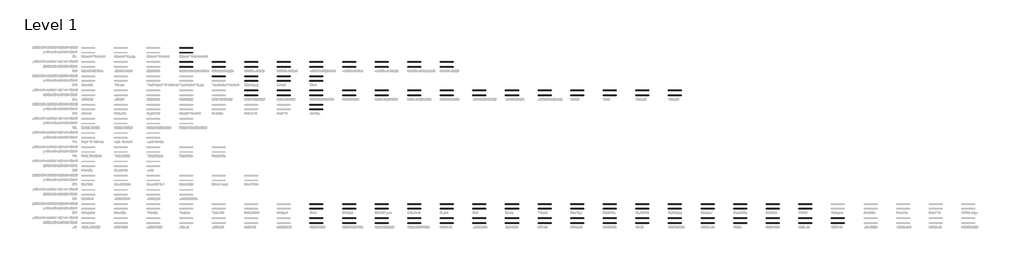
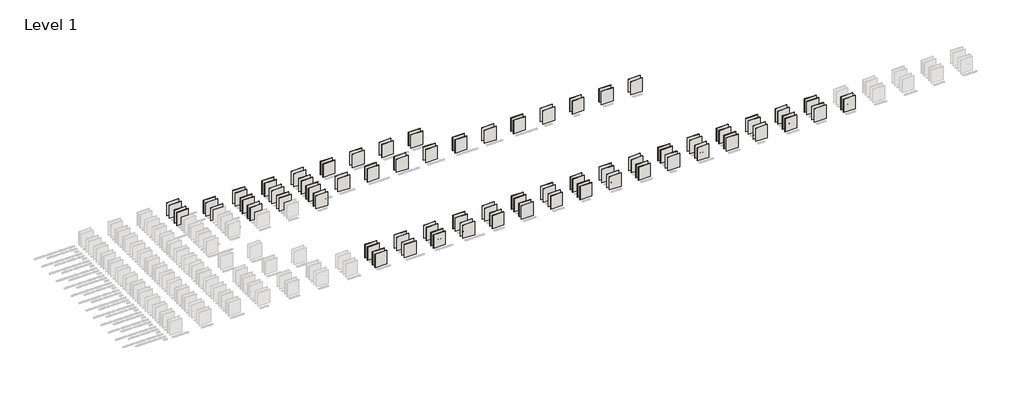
# One storey, part 2 of 113: 123 walls.
"""IFC4 building model written with IfcOpenShell, lengths in millimetres."""

import ifcopenshell
import ifcopenshell.guid

model = None  # the IFC model being written
_history = None  # IfcOwnerHistory: only IFC2X3 demands one
_inside = {}  # id of a spatial element -> (the spatial element, [elements in it])
_under = {}  # id of a project, library or spatial element -> (it, [spatial elements below it])
_declared = {}  # id of a project -> (the project, [libraries it declares])
_typed = {}  # id of a type object -> (the type object, [elements of that type])
_made_of = {}  # id of a material, layer set ... -> (it, [elements and type objects made of it])


def new_model(schema):
    """Start an empty IFC model of exactly this schema.

    Asked for "IFC4X3", IfcOpenShell would pick the latest addendum, in which some entities
    have other attributes; the version numbers below select the first issue.
    IFC2X3 requires an IfcOwnerHistory on every rooted entity: one is made here for all.
    """
    global model, _history
    if schema == "IFC4X3":
        model = ifcopenshell.file(schema_version=(4, 3, 0, 0))
    else:
        model = ifcopenshell.file(schema=schema)
    _inside.clear()
    _under.clear()
    _declared.clear()
    _typed.clear()
    _made_of.clear()
    _history = None
    if model.schema == "IFC2X3":
        org = make("IfcOrganization", Name="unknown")
        user = make(
            "IfcPersonAndOrganization",
            ThePerson=make("IfcPerson", FamilyName="unknown"),
            TheOrganization=org,
        )
        app = make(
            "IfcApplication",
            ApplicationDeveloper=org,
            Version="unknown",
            ApplicationFullName="unknown",
            ApplicationIdentifier="unknown",
        )
        _history = make(
            "IfcOwnerHistory",
            OwningUser=user,
            OwningApplication=app,
            ChangeAction="ADDED",
            CreationDate=0,
        )
    return model


def make(cls, **values):
    """One entity of the class cls with the attributes given. An attribute that is None is left unset."""
    return model.create_entity(
        cls, **{name: value for name, value in values.items() if value is not None}
    )


def rooted(cls, **values):
    """An entity with a GlobalId (a new one), such as an element, a storey or a relation."""
    return make(cls, GlobalId=ifcopenshell.guid.new(), OwnerHistory=_history, **values)


def si_unit(unit_type, name, prefix=None):
    """IfcSIUnit, for example si_unit("LENGTHUNIT", "METRE", prefix="MILLI")."""
    return make("IfcSIUnit", UnitType=unit_type, Prefix=prefix, Name=name)


def assignment(units):
    """IfcUnitAssignment: the units of a project."""
    return None if units is None else make("IfcUnitAssignment", Units=units)


def point(xyz):
    """IfcCartesianPoint."""
    return None if xyz is None else make("IfcCartesianPoint", Coordinates=xyz)


def direction(xyz):
    """IfcDirection."""
    return None if xyz is None else make("IfcDirection", DirectionRatios=xyz)


def frame(location, z_axis=None, x_axis=None):
    """IfcAxis2Placement3D, a coordinate frame: its origin and axes. An axis left out is left unset."""
    return make(
        "IfcAxis2Placement3D",
        Location=point(location),
        Axis=direction(z_axis),
        RefDirection=direction(x_axis),
    )


def origin():
    """The frame at (0, 0, 0) with its axes left unset."""
    return frame((0.0, 0.0, 0.0))


def origin_with_axes():
    """The frame at (0, 0, 0) with the z axis (0, 0, 1) and the x axis (1, 0, 0) written out."""
    return frame((0.0, 0.0, 0.0), z_axis=(0.0, 0.0, 1.0), x_axis=(1.0, 0.0, 0.0))


def place(relative_to, where):
    """IfcLocalPlacement: puts the frame where relative to a parent placement (None: the world)."""
    return make(
        "IfcLocalPlacement", PlacementRelTo=relative_to, RelativePlacement=where
    )


def context(
    kind, dimensions, precision=None, world=None, true_north=None, identifier=None
):
    """IfcGeometricRepresentationContext, for example the 3D "Model" context."""
    return make(
        "IfcGeometricRepresentationContext",
        ContextIdentifier=identifier,
        ContextType=kind,
        CoordinateSpaceDimension=dimensions,
        Precision=precision,
        WorldCoordinateSystem=world,
        TrueNorth=true_north,
    )


def project(units=None, contexts=None):
    """IfcProject with its units and contexts."""
    return rooted(
        "IfcProject",
        Name="project",
        RepresentationContexts=contexts,
        UnitsInContext=assignment(units),
    )


def spatial(cls, under=None, at=None, **own):
    """A site, building, storey or space (cls), placed at a placement, below another one or the project."""
    s = rooted(cls, ObjectPlacement=at, **own)
    if under is not None:
        _under.setdefault(under.id(), (under, []))[1].append(s)
    return s


def polyline(points):
    """IfcPolyline through the points."""
    return make("IfcPolyline", Points=[point(p) for p in points])


def outline(outer, holes=None, kind="AREA"):
    """IfcArbitraryClosedProfileDef: a profile drawn as a closed curve; with holes, ...WithVoids."""
    if holes is None:
        return make("IfcArbitraryClosedProfileDef", ProfileType=kind, OuterCurve=outer)
    return make(
        "IfcArbitraryProfileDefWithVoids",
        ProfileType=kind,
        OuterCurve=outer,
        InnerCurves=holes,
    )


def extrude(swept, where, along, depth):
    """IfcExtrudedAreaSolid: the profile swept, set in the frame where, extruded along a direction by depth."""
    return make(
        "IfcExtrudedAreaSolid",
        SweptArea=swept,
        Position=where,
        ExtrudedDirection=direction(along),
        Depth=depth,
    )


def shape(context_of_items, identifier, shape_type, items):
    """IfcShapeRepresentation: the items that make up one representation, for example the "Body"."""
    return make(
        "IfcShapeRepresentation",
        ContextOfItems=context_of_items,
        RepresentationIdentifier=identifier,
        RepresentationType=shape_type,
        Items=items,
    )


def made_of(thing, what):
    """Note that an element or type object is made of a material, layer set ...; save() writes the relation."""
    if what is not None:
        _made_of.setdefault(what.id(), (what, []))[1].append(thing)
    return thing


def element(
    cls,
    number,
    at=None,
    inside=None,
    cuts=None,
    type_object=None,
    material=None,
    context=None,
    identifier="Body",
    shape_type=None,
    held_by="IfcProductDefinitionShape",
    body=None,
    shapes=None,
    **own,
):
    """One element of the class cls, such as IfcWall. Its Tag is "e" and its number.

    at: its placement. inside: the storey or other place that contains it. cuts: it is an
    opening in that element (IfcRelVoidsElement). A single representation is given by context,
    identifier, shape_type and body (its items); several are given by shapes. held_by: the class
    of the entity that holds the representations. save() writes the other relations.
    """
    e = rooted(cls, Tag="e%d" % number, ObjectPlacement=at, **own)
    if body is not None:
        shapes = [shape(context, identifier, shape_type, body)]
    if shapes is not None:
        e.Representation = make(held_by, Representations=shapes)
    if inside is not None:
        _inside.setdefault(inside.id(), (inside, []))[1].append(e)
    if cuts is not None:
        rooted(
            "IfcRelVoidsElement", RelatingBuildingElement=cuts, RelatedOpeningElement=e
        )
    if type_object is not None:
        _typed.setdefault(type_object.id(), (type_object, []))[1].append(e)
    return made_of(e, material)


def aggregate(whole, parts):
    """IfcRelAggregates: a whole, such as a stair, and the parts it consists of."""
    return rooted("IfcRelAggregates", RelatingObject=whole, RelatedObjects=parts)


def save(model, path):
    """Write the relations noted so far, then the file.

    IfcRelAggregates (storeys below a building ...), IfcRelContainedInSpatialStructure (elements
    in a storey), IfcRelDefinesByType, IfcRelAssociatesMaterial and IfcRelDeclares: one each for
    every whole, place, type object, material and project.
    """
    for whole, parts in _under.values():
        aggregate(whole, parts)
    for where, things in _inside.values():
        rooted(
            "IfcRelContainedInSpatialStructure",
            RelatedElements=things,
            RelatingStructure=where,
        )
    for kind, things in _typed.values():
        rooted("IfcRelDefinesByType", RelatedObjects=things, RelatingType=kind)
    for what, things in _made_of.values():
        rooted("IfcRelAssociatesMaterial", RelatedObjects=things, RelatingMaterial=what)
    for by, libraries in _declared.values():
        rooted("IfcRelDeclares", RelatingContext=by, RelatedDefinitions=libraries)
    model.write(path)


model = new_model("IFC4")

# Units and contexts
model_context = context("Model", 3, world=origin())
ifc_project = project(units=[si_unit("LENGTHUNIT", "METRE", prefix="MILLI")], contexts=[model_context])

# Site, building, storey
site = spatial("IfcSite", under=ifc_project)
building = spatial("IfcBuilding", under=site)
storey = spatial("IfcBuildingStorey", under=building, Name="Level 1", Elevation=0.0)

# Walls
placement = place(None, origin())
element("IfcWall", 1, ObjectType="RSen_22_WA_partition wall - metal stud - Clicwall BST Carrara creamy 2785x600x10 mm_Unilin", at=placement, inside=storey, context=model_context, shape_type="SweptSolid", body=[
    extrude(outline(polyline([(72694.8, 1179.2), (69342.0, 1179.2), (69342.0, 1259.2), (72694.8, 1259.2), (72694.8, 1179.2)])), origin_with_axes(), (0.0, 0.0, 1.0), 4000.0),
])
element("IfcWall", 2, ObjectType="RSen_22_WA_partition wall - metal stud - chipboard - Clicwall BST Carrara creamy 2785x600x10 mm_Unilin", at=placement, inside=storey, context=model_context, shape_type="SweptSolid", body=[
    extrude(outline(polyline([(72694.8, 2392.4), (69342.0, 2392.4), (69342.0, 2484.4), (72694.8, 2484.4), (72694.8, 2392.4)])), origin_with_axes(), (0.0, 0.0, 1.0), 4000.0),
])
element("IfcWall", 3, ObjectType="RSen_22_WA_partition wall - metal stud - Clicwall BST Carrara frosted white 2785x600x10 mm_Unilin", at=placement, inside=storey, context=model_context, shape_type="SweptSolid", body=[
    extrude(outline(polyline([(81076.8, 1179.2), (77724.0, 1179.2), (77724.0, 1259.2), (81076.8, 1259.2), (81076.8, 1179.2)])), origin_with_axes(), (0.0, 0.0, 1.0), 4000.0),
])
element("IfcWall", 4, ObjectType="RSen_22_WA_partition wall - metal stud - chipboard - Clicwall BST Carrara frosted white 2785x600x10 mm_Unilin", at=placement, inside=storey, context=model_context, shape_type="SweptSolid", body=[
    extrude(outline(polyline([(81076.8, 2392.4), (77724.0, 2392.4), (77724.0, 2484.4), (81076.8, 2484.4), (81076.8, 2392.4)])), origin_with_axes(), (0.0, 0.0, 1.0), 4000.0),
])
element("IfcWall", 5, ObjectType="RSen_22_WA_partition wall - metal stud - Clicwall BST Ceppo mineral grey 2785x600x10 mm_Unilin", at=placement, inside=storey, context=model_context, shape_type="SweptSolid", body=[
    extrude(outline(polyline([(89458.8, 1179.2), (86106.0, 1179.2), (86106.0, 1259.2), (89458.8, 1259.2), (89458.8, 1179.2)])), origin_with_axes(), (0.0, 0.0, 1.0), 4000.0),
])
element("IfcWall", 6, ObjectType="RSen_22_WA_partition wall - metal stud - chipboard - Clicwall BST Ceppo mineral grey 2785x600x10 mm_Unilin", at=placement, inside=storey, context=model_context, shape_type="SweptSolid", body=[
    extrude(outline(polyline([(89458.8, 2392.4), (86106.0, 2392.4), (86106.0, 2484.4), (89458.8, 2484.4), (89458.8, 2392.4)])), origin_with_axes(), (0.0, 0.0, 1.0), 4000.0),
])
element("IfcWall", 7, ObjectType="RSen_22_WA_partition wall - metal stud - Clicwall BST Ceppo seashore beige 2785x600x10 mm_Unilin", at=placement, inside=storey, context=model_context, shape_type="SweptSolid", body=[
    extrude(outline(polyline([(97840.8, 1179.2), (94488.0, 1179.2), (94488.0, 1259.2), (97840.8, 1259.2), (97840.8, 1179.2)])), origin_with_axes(), (0.0, 0.0, 1.0), 4000.0),
])
element("IfcWall", 8, ObjectType="RSen_22_WA_partition wall - metal stud - chipboard - Clicwall BST Ceppo seashore beige 2785x600x10 mm_Unilin", at=placement, inside=storey, context=model_context, shape_type="SweptSolid", body=[
    extrude(outline(polyline([(97840.8, 2392.4), (94488.0, 2392.4), (94488.0, 2484.4), (97840.8, 2484.4), (97840.8, 2392.4)])), origin_with_axes(), (0.0, 0.0, 1.0), 4000.0),
])
element("IfcWall", 9, ObjectType="RSen_22_WA_partition wall - metal stud - Clicwall BST Delano Oak 2785x600x10 mm_Unilin", at=placement, inside=storey, context=model_context, shape_type="SweptSolid", body=[
    extrude(outline(polyline([(106222.8, 1179.2), (102870.0, 1179.2), (102870.0, 1259.2), (106222.8, 1259.2), (106222.8, 1179.2)])), origin_with_axes(), (0.0, 0.0, 1.0), 4000.0),
])
element("IfcWall", 10, ObjectType="RSen_22_WA_partition wall - metal stud - chipboard - Clicwall BST Delano Oak 2785x600x10 mm_Unilin", at=placement, inside=storey, context=model_context, shape_type="SweptSolid", body=[
    extrude(outline(polyline([(106222.8, 2392.4), (102870.0, 2392.4), (102870.0, 2484.4), (106222.8, 2484.4), (106222.8, 2392.4)])), origin_with_axes(), (0.0, 0.0, 1.0), 4000.0),
])
element("IfcWall", 11, ObjectType="RSen_22_WA_partition wall - metal stud - Clicwall BST Dinara Walnut 2785x600x10 mm_Unilin", at=placement, inside=storey, context=model_context, shape_type="SweptSolid", body=[
    extrude(outline(polyline([(114604.8, 1179.2), (111252.0, 1179.2), (111252.0, 1259.2), (114604.8, 1259.2), (114604.8, 1179.2)])), origin_with_axes(), (0.0, 0.0, 1.0), 4000.0),
])
element("IfcWall", 12, ObjectType="RSen_22_WA_partition wall - metal stud - chipboard - Clicwall BST Dinara Walnut 2785x600x10 mm_Unilin", at=placement, inside=storey, context=model_context, shape_type="SweptSolid", body=[
    extrude(outline(polyline([(114604.8, 2392.4), (111252.0, 2392.4), (111252.0, 2484.4), (114604.8, 2484.4), (114604.8, 2392.4)])), origin_with_axes(), (0.0, 0.0, 1.0), 4000.0),
])
element("IfcWall", 13, ObjectType="RSen_22_WA_partition wall - metal stud - Clicwall BST Eiger Walnut 2785x600x10 mm_Unilin", at=placement, inside=storey, context=model_context, shape_type="SweptSolid", body=[
    extrude(outline(polyline([(122986.8, 1179.2), (119634.0, 1179.2), (119634.0, 1259.2), (122986.8, 1259.2), (122986.8, 1179.2)])), origin_with_axes(), (0.0, 0.0, 1.0), 4000.0),
])
element("IfcWall", 14, ObjectType="RSen_22_WA_partition wall - metal stud - chipboard - Clicwall BST Eiger Walnut 2785x600x10 mm_Unilin", at=placement, inside=storey, context=model_context, shape_type="SweptSolid", body=[
    extrude(outline(polyline([(122986.8, 2392.4), (119634.0, 2392.4), (119634.0, 2484.4), (122986.8, 2484.4), (122986.8, 2392.4)])), origin_with_axes(), (0.0, 0.0, 1.0), 4000.0),
])
element("IfcWall", 15, ObjectType="RSen_22_WA_partition wall - metal stud - Clicwall BST Etna Oak 2785x600x10 mm_Unilin", at=placement, inside=storey, context=model_context, shape_type="SweptSolid", body=[
    extrude(outline(polyline([(131368.8, 1179.2), (128016.0, 1179.2), (128016.0, 1259.2), (131368.8, 1259.2), (131368.8, 1179.2)])), origin_with_axes(), (0.0, 0.0, 1.0), 4000.0),
])
element("IfcWall", 16, ObjectType="RSen_22_WA_partition wall - metal stud - chipboard - Clicwall BST Etna Oak 2785x600x10 mm_Unilin", at=placement, inside=storey, context=model_context, shape_type="SweptSolid", body=[
    extrude(outline(polyline([(131368.8, 2392.4), (128016.0, 2392.4), (128016.0, 2484.4), (131368.8, 2484.4), (131368.8, 2392.4)])), origin_with_axes(), (0.0, 0.0, 1.0), 4000.0),
])
element("IfcWall", 17, ObjectType="RSen_22_WA_partition wall - metal stud - Clicwall BST Everest oak 2785x600x10 mm_Unilin", at=placement, inside=storey, context=model_context, shape_type="SweptSolid", body=[
    extrude(outline(polyline([(139750.8, 1179.2), (136398.0, 1179.2), (136398.0, 1259.2), (139750.8, 1259.2), (139750.8, 1179.2)])), origin_with_axes(), (0.0, 0.0, 1.0), 4000.0),
])
element("IfcWall", 18, ObjectType="RSen_22_WA_partition wall - metal stud - chipboard - Clicwall BST Everest oak 2785x600x10 mm_Unilin", at=placement, inside=storey, context=model_context, shape_type="SweptSolid", body=[
    extrude(outline(polyline([(139750.8, 2392.4), (136398.0, 2392.4), (136398.0, 2484.4), (139750.8, 2484.4), (139750.8, 2392.4)])), origin_with_axes(), (0.0, 0.0, 1.0), 4000.0),
])
element("IfcWall", 19, ObjectType="RSen_22_WA_partition wall - metal stud - Clicwall BST Everest white 2785x600x10 mm_Unilin", at=placement, inside=storey, context=model_context, shape_type="SweptSolid", body=[
    extrude(outline(polyline([(148132.8, 1179.2), (144780.0, 1179.2), (144780.0, 1259.2), (148132.8, 1259.2), (148132.8, 1179.2)])), origin_with_axes(), (0.0, 0.0, 1.0), 4000.0),
])
element("IfcWall", 20, ObjectType="RSen_22_WA_partition wall - metal stud - chipboard - Clicwall BST Everest white 2785x600x10 mm_Unilin", at=placement, inside=storey, context=model_context, shape_type="SweptSolid", body=[
    extrude(outline(polyline([(148132.8, 2392.4), (144780.0, 2392.4), (144780.0, 2484.4), (148132.8, 2484.4), (148132.8, 2392.4)])), origin_with_axes(), (0.0, 0.0, 1.0), 4000.0),
])
element("IfcWall", 21, ObjectType="RSen_22_WA_partition wall - metal stud - Clicwall BST Fiji Oak  2785x600x10 mm_Unilin", at=placement, inside=storey, context=model_context, shape_type="SweptSolid", body=[
    extrude(outline(polyline([(156514.8, 1179.2), (153162.0, 1179.2), (153162.0, 1259.2), (156514.8, 1259.2), (156514.8, 1179.2)])), origin_with_axes(), (0.0, 0.0, 1.0), 4000.0),
])
element("IfcWall", 22, ObjectType="RSen_22_WA_partition wall - metal stud - chipboard - Clicwall BST Fiji Oak  2785x600x10 mm_Unilin", at=placement, inside=storey, context=model_context, shape_type="SweptSolid", body=[
    extrude(outline(polyline([(156514.8, 2392.4), (153162.0, 2392.4), (153162.0, 2484.4), (156514.8, 2484.4), (156514.8, 2392.4)])), origin_with_axes(), (0.0, 0.0, 1.0), 4000.0),
])
element("IfcWall", 23, ObjectType="RSen_22_WA_partition wall - metal stud - Clicwall BST Flakewood white 2785x600x10 mm_Unilin", at=placement, inside=storey, context=model_context, shape_type="SweptSolid", body=[
    extrude(outline(polyline([(164896.8, 1179.2), (161544.0, 1179.2), (161544.0, 1259.2), (164896.8, 1259.2), (164896.8, 1179.2)])), origin_with_axes(), (0.0, 0.0, 1.0), 4000.0),
])
element("IfcWall", 24, ObjectType="RSen_22_WA_partition wall - metal stud - chipboard - Clicwall BST Flakewood white 2785x600x10 mm_Unilin", at=placement, inside=storey, context=model_context, shape_type="SweptSolid", body=[
    extrude(outline(polyline([(164896.8, 2392.4), (161544.0, 2392.4), (161544.0, 2484.4), (164896.8, 2484.4), (164896.8, 2392.4)])), origin_with_axes(), (0.0, 0.0, 1.0), 4000.0),
])
element("IfcWall", 25, ObjectType="RSen_22_WA_partition wall - metal stud - Clicwall BST Garonne Oak 2785x600x10 mm_Unilin", at=placement, inside=storey, context=model_context, shape_type="SweptSolid", body=[
    extrude(outline(polyline([(173278.8, 1179.2), (169926.0, 1179.2), (169926.0, 1259.2), (173278.8, 1259.2), (173278.8, 1179.2)])), origin_with_axes(), (0.0, 0.0, 1.0), 4000.0),
])
element("IfcWall", 26, ObjectType="RSen_22_WA_partition wall - metal stud - chipboard - Clicwall BST Garonne Oak 2785x600x10 mm_Unilin", at=placement, inside=storey, context=model_context, shape_type="SweptSolid", body=[
    extrude(outline(polyline([(173278.8, 2392.4), (169926.0, 2392.4), (169926.0, 2484.4), (173278.8, 2484.4), (173278.8, 2392.4)])), origin_with_axes(), (0.0, 0.0, 1.0), 4000.0),
])
element("IfcWall", 27, ObjectType="RSen_22_WA_partition wall - metal stud - Clicwall BST Granulo 2785x600x10 mm_Unilin", at=placement, inside=storey, context=model_context, shape_type="SweptSolid", body=[
    extrude(outline(polyline([(181660.8, 1179.2), (178308.0, 1179.2), (178308.0, 1259.2), (181660.8, 1259.2), (181660.8, 1179.2)])), origin_with_axes(), (0.0, 0.0, 1.0), 4000.0),
])
element("IfcWall", 28, ObjectType="RSen_22_WA_partition wall - metal stud - chipboard - Clicwall BST Granulo 2785x600x10 mm_Unilin", at=placement, inside=storey, context=model_context, shape_type="SweptSolid", body=[
    extrude(outline(polyline([(181660.8, 2392.4), (178308.0, 2392.4), (178308.0, 2484.4), (181660.8, 2484.4), (181660.8, 2392.4)])), origin_with_axes(), (0.0, 0.0, 1.0), 4000.0),
])
element("IfcWall", 29, ObjectType="RSen_22_WA_partition wall - metal stud - Clicwall BST Italian Walnut 2785x600x10 mm_Unilin", at=placement, inside=storey, context=model_context, shape_type="SweptSolid", body=[
    extrude(outline(polyline([(190042.8, 1179.2), (186690.0, 1179.2), (186690.0, 1259.2), (190042.8, 1259.2), (190042.8, 1179.2)])), origin_with_axes(), (0.0, 0.0, 1.0), 4000.0),
])
element("IfcWall", 30, ObjectType="RSen_22_WA_partition wall - metal stud - chipboard - Clicwall BST Italian Walnut 2785x600x10 mm_Unilin", at=placement, inside=storey, context=model_context, shape_type="SweptSolid", body=[
    extrude(outline(polyline([(190042.8, 2392.4), (186690.0, 2392.4), (186690.0, 2484.4), (190042.8, 2484.4), (190042.8, 2392.4)])), origin_with_axes(), (0.0, 0.0, 1.0), 4000.0),
])
element("IfcWall", 31, ObjectType="RSen_22_WA_partition wall - metal stud - Clicwall BST Logan Oak 2785x600x10 mm_Unilin", at=placement, inside=storey, context=model_context, shape_type="SweptSolid", body=[
    extrude(outline(polyline([(198424.8, 1179.2), (195072.0, 1179.2), (195072.0, 1259.2), (198424.8, 1259.2), (198424.8, 1179.2)])), origin_with_axes(), (0.0, 0.0, 1.0), 4000.0),
])
element("IfcWall", 32, ObjectType="RSen_22_WA_partition wall - metal stud - chipboard - Clicwall BST Logan Oak 2785x600x10 mm_Unilin", at=placement, inside=storey, context=model_context, shape_type="SweptSolid", body=[
    extrude(outline(polyline([(198424.8, 2392.4), (195072.0, 2392.4), (195072.0, 2484.4), (198424.8, 2484.4), (198424.8, 2392.4)])), origin_with_axes(), (0.0, 0.0, 1.0), 4000.0),
])
element("IfcWall", 33, ObjectType="RSen_22_WA_partition wall - metal stud - Clicwall BST Marne Oak 2785x600x10 mm_Unilin", at=placement, inside=storey, context=model_context, shape_type="SweptSolid", body=[
    extrude(outline(polyline([(206806.8, 1179.2), (203454.0, 1179.2), (203454.0, 1259.2), (206806.8, 1259.2), (206806.8, 1179.2)])), origin_with_axes(), (0.0, 0.0, 1.0), 4000.0),
])
element("IfcWall", 34, ObjectType="RSen_22_WA_partition wall - metal stud - chipboard - Clicwall BST Marne Oak 2785x600x10 mm_Unilin", at=placement, inside=storey, context=model_context, shape_type="SweptSolid", body=[
    extrude(outline(polyline([(206806.8, 2392.4), (203454.0, 2392.4), (203454.0, 2484.4), (206806.8, 2484.4), (206806.8, 2392.4)])), origin_with_axes(), (0.0, 0.0, 1.0), 4000.0),
])
element("IfcWall", 35, ObjectType="RSen_22_WA_partition wall - metal stud - Clicwall CST Choco 2785x600x10 mm_Unilin", at=placement, inside=storey, context=model_context, shape_type="SweptSolid", body=[
    extrude(outline(polyline([(72694.8, 4836.8), (69342.0, 4836.8), (69342.0, 4916.8), (72694.8, 4916.8), (72694.8, 4836.8)])), origin_with_axes(), (0.0, 0.0, 1.0), 4000.0),
])
element("IfcWall", 36, ObjectType="RSen_22_WA_partition wall - metal stud - chipboard - Clicwall CST Choco 2785x600x10 mm_Unilin", at=placement, inside=storey, context=model_context, shape_type="SweptSolid", body=[
    extrude(outline(polyline([(72694.8, 6050.0), (69342.0, 6050.0), (69342.0, 6142.0), (72694.8, 6142.0), (72694.8, 6050.0)])), origin_with_axes(), (0.0, 0.0, 1.0), 4000.0),
])
element("IfcWall", 37, ObjectType="RSen_22_WA_partition wall - metal stud - Clicwall CST Cloud grey 2785x600x10 mm_Unilin", at=placement, inside=storey, context=model_context, shape_type="SweptSolid", body=[
    extrude(outline(polyline([(81076.8, 4836.8), (77724.0, 4836.8), (77724.0, 4916.8), (81076.8, 4916.8), (81076.8, 4836.8)])), origin_with_axes(), (0.0, 0.0, 1.0), 4000.0),
])
element("IfcWall", 38, ObjectType="RSen_22_WA_partition wall - metal stud - chipboard - Clicwall CST Cloud grey 2785x600x10 mm_Unilin", at=placement, inside=storey, context=model_context, shape_type="SweptSolid", body=[
    extrude(outline(polyline([(81076.8, 6050.0), (77724.0, 6050.0), (77724.0, 6142.0), (81076.8, 6142.0), (81076.8, 6050.0)])), origin_with_axes(), (0.0, 0.0, 1.0), 4000.0),
])
element("IfcWall", 39, ObjectType="RSen_22_WA_partition wall - metal stud - Clicwall CST Cloverfield green 2785x600x10 mm_Unilin", at=placement, inside=storey, context=model_context, shape_type="SweptSolid", body=[
    extrude(outline(polyline([(89458.8, 4836.8), (86106.0, 4836.8), (86106.0, 4916.8), (89458.8, 4916.8), (89458.8, 4836.8)])), origin_with_axes(), (0.0, 0.0, 1.0), 4000.0),
])
element("IfcWall", 40, ObjectType="RSen_22_WA_partition wall - metal stud - chipboard - Clicwall CST Cloverfield green 2785x600x10 mm_Unilin", at=placement, inside=storey, context=model_context, shape_type="SweptSolid", body=[
    extrude(outline(polyline([(89458.8, 6050.0), (86106.0, 6050.0), (86106.0, 6142.0), (89458.8, 6142.0), (89458.8, 6050.0)])), origin_with_axes(), (0.0, 0.0, 1.0), 4000.0),
])
element("IfcWall", 41, ObjectType="RSen_22_WA_partition wall - metal stud - Clicwall CST Coffee brown 2785x600x10 mm_Unilin", at=placement, inside=storey, context=model_context, shape_type="SweptSolid", body=[
    extrude(outline(polyline([(97840.8, 4836.8), (94488.0, 4836.8), (94488.0, 4916.8), (97840.8, 4916.8), (97840.8, 4836.8)])), origin_with_axes(), (0.0, 0.0, 1.0), 4000.0),
])
element("IfcWall", 42, ObjectType="RSen_22_WA_partition wall - metal stud - chipboard - Clicwall CST Coffee brown 2785x600x10 mm_Unilin", at=placement, inside=storey, context=model_context, shape_type="SweptSolid", body=[
    extrude(outline(polyline([(97840.8, 6050.0), (94488.0, 6050.0), (94488.0, 6142.0), (97840.8, 6142.0), (97840.8, 6050.0)])), origin_with_axes(), (0.0, 0.0, 1.0), 4000.0),
])
element("IfcWall", 43, ObjectType="RSen_22_WA_partition wall - metal stud - Clicwall CST Cognac 2785x600x10 mm_Unilin", at=placement, inside=storey, context=model_context, shape_type="SweptSolid", body=[
    extrude(outline(polyline([(106222.8, 4836.8), (102870.0, 4836.8), (102870.0, 4916.8), (106222.8, 4916.8), (106222.8, 4836.8)])), origin_with_axes(), (0.0, 0.0, 1.0), 4000.0),
])
element("IfcWall", 44, ObjectType="RSen_22_WA_partition wall - metal stud - chipboard - Clicwall CST Cognac 2785x600x10 mm_Unilin", at=placement, inside=storey, context=model_context, shape_type="SweptSolid", body=[
    extrude(outline(polyline([(106222.8, 6050.0), (102870.0, 6050.0), (102870.0, 6142.0), (106222.8, 6142.0), (106222.8, 6050.0)])), origin_with_axes(), (0.0, 0.0, 1.0), 4000.0),
])
element("IfcWall", 45, ObjectType="RSen_22_WA_partition wall - metal stud - Clicwall CST Coral 2785x600x10 mm_Unilin", at=placement, inside=storey, context=model_context, shape_type="SweptSolid", body=[
    extrude(outline(polyline([(114604.8, 4836.8), (111252.0, 4836.8), (111252.0, 4916.8), (114604.8, 4916.8), (114604.8, 4836.8)])), origin_with_axes(), (0.0, 0.0, 1.0), 4000.0),
])
element("IfcWall", 46, ObjectType="RSen_22_WA_partition wall - metal stud - chipboard - Clicwall CST Coral 2785x600x10 mm_Unilin", at=placement, inside=storey, context=model_context, shape_type="SweptSolid", body=[
    extrude(outline(polyline([(114604.8, 6050.0), (111252.0, 6050.0), (111252.0, 6142.0), (114604.8, 6142.0), (114604.8, 6050.0)])), origin_with_axes(), (0.0, 0.0, 1.0), 4000.0),
])
element("IfcWall", 47, ObjectType="RSen_22_WA_partition wall - metal stud - Clicwall CST Creamy 2785x600x10 mm_Unilin", at=placement, inside=storey, context=model_context, shape_type="SweptSolid", body=[
    extrude(outline(polyline([(122986.8, 4836.8), (119634.0, 4836.8), (119634.0, 4916.8), (122986.8, 4916.8), (122986.8, 4836.8)])), origin_with_axes(), (0.0, 0.0, 1.0), 4000.0),
])
element("IfcWall", 48, ObjectType="RSen_22_WA_partition wall - metal stud - chipboard - Clicwall CST Creamy 2785x600x10 mm_Unilin", at=placement, inside=storey, context=model_context, shape_type="SweptSolid", body=[
    extrude(outline(polyline([(122986.8, 6050.0), (119634.0, 6050.0), (119634.0, 6142.0), (122986.8, 6142.0), (122986.8, 6050.0)])), origin_with_axes(), (0.0, 0.0, 1.0), 4000.0),
])
element("IfcWall", 49, ObjectType="RSen_22_WA_partition wall - metal stud - Clicwall CST Dark ecru 2785x600x10 mm_Unilin", at=placement, inside=storey, context=model_context, shape_type="SweptSolid", body=[
    extrude(outline(polyline([(131368.8, 4836.8), (128016.0, 4836.8), (128016.0, 4916.8), (131368.8, 4916.8), (131368.8, 4836.8)])), origin_with_axes(), (0.0, 0.0, 1.0), 4000.0),
])
element("IfcWall", 50, ObjectType="RSen_22_WA_partition wall - metal stud - chipboard - Clicwall CST Dark ecru 2785x600x10 mm_Unilin", at=placement, inside=storey, context=model_context, shape_type="SweptSolid", body=[
    extrude(outline(polyline([(131368.8, 6050.0), (128016.0, 6050.0), (128016.0, 6142.0), (131368.8, 6142.0), (131368.8, 6050.0)])), origin_with_axes(), (0.0, 0.0, 1.0), 4000.0),
])
element("IfcWall", 51, ObjectType="RSen_22_WA_partition wall - metal stud - Clicwall CST Dune beige 2785x600x10 mm_Unilin", at=placement, inside=storey, context=model_context, shape_type="SweptSolid", body=[
    extrude(outline(polyline([(139750.8, 4836.8), (136398.0, 4836.8), (136398.0, 4916.8), (139750.8, 4916.8), (139750.8, 4836.8)])), origin_with_axes(), (0.0, 0.0, 1.0), 4000.0),
])
element("IfcWall", 52, ObjectType="RSen_22_WA_partition wall - metal stud - chipboard - Clicwall CST Dune beige 2785x600x10 mm_Unilin", at=placement, inside=storey, context=model_context, shape_type="SweptSolid", body=[
    extrude(outline(polyline([(139750.8, 6050.0), (136398.0, 6050.0), (136398.0, 6142.0), (139750.8, 6142.0), (139750.8, 6050.0)])), origin_with_axes(), (0.0, 0.0, 1.0), 4000.0),
])
element("IfcWall", 53, ObjectType="RSen_22_WA_partition wall - metal stud - Clicwall CST Electric blue 2785x600x10 mm_Unilin", at=placement, inside=storey, context=model_context, shape_type="SweptSolid", body=[
    extrude(outline(polyline([(148132.8, 4836.8), (144780.0, 4836.8), (144780.0, 4916.8), (148132.8, 4916.8), (148132.8, 4836.8)])), origin_with_axes(), (0.0, 0.0, 1.0), 4000.0),
])
element("IfcWall", 54, ObjectType="RSen_22_WA_partition wall - metal stud - chipboard - Clicwall CST Electric blue 2785x600x10 mm_Unilin", at=placement, inside=storey, context=model_context, shape_type="SweptSolid", body=[
    extrude(outline(polyline([(148132.8, 6050.0), (144780.0, 6050.0), (144780.0, 6142.0), (148132.8, 6142.0), (148132.8, 6050.0)])), origin_with_axes(), (0.0, 0.0, 1.0), 4000.0),
])
element("IfcWall", 55, ObjectType="RSen_22_WA_partition wall - metal stud - Clicwall CST Elegant black 2785x600x10 mm_Unilin", at=placement, inside=storey, context=model_context, shape_type="SweptSolid", body=[
    extrude(outline(polyline([(156514.8, 4836.8), (153162.0, 4836.8), (153162.0, 4916.8), (156514.8, 4916.8), (156514.8, 4836.8)])), origin_with_axes(), (0.0, 0.0, 1.0), 4000.0),
])
element("IfcWall", 56, ObjectType="RSen_22_WA_partition wall - metal stud - chipboard - Clicwall CST Elegant black 2785x600x10 mm_Unilin", at=placement, inside=storey, context=model_context, shape_type="SweptSolid", body=[
    extrude(outline(polyline([(156514.8, 6050.0), (153162.0, 6050.0), (153162.0, 6142.0), (156514.8, 6142.0), (156514.8, 6050.0)])), origin_with_axes(), (0.0, 0.0, 1.0), 4000.0),
])
element("IfcWall", 57, ObjectType="RSen_22_WA_partition wall - metal stud - Clicwall CST Elephant grey 2785x600x10 mm_Unilin", at=placement, inside=storey, context=model_context, shape_type="SweptSolid", body=[
    extrude(outline(polyline([(164896.8, 4836.8), (161544.0, 4836.8), (161544.0, 4916.8), (164896.8, 4916.8), (164896.8, 4836.8)])), origin_with_axes(), (0.0, 0.0, 1.0), 4000.0),
])
element("IfcWall", 58, ObjectType="RSen_22_WA_partition wall - metal stud - chipboard - Clicwall CST Elephant grey 2785x600x10 mm_Unilin", at=placement, inside=storey, context=model_context, shape_type="SweptSolid", body=[
    extrude(outline(polyline([(164896.8, 6050.0), (161544.0, 6050.0), (161544.0, 6142.0), (164896.8, 6142.0), (164896.8, 6050.0)])), origin_with_axes(), (0.0, 0.0, 1.0), 4000.0),
])
element("IfcWall", 59, ObjectType="RSen_22_WA_partition wall - metal stud - Clicwall CST Evening red 2785x600x10 mm_Unilin", at=placement, inside=storey, context=model_context, shape_type="SweptSolid", body=[
    extrude(outline(polyline([(173278.8, 4836.8), (169926.0, 4836.8), (169926.0, 4916.8), (173278.8, 4916.8), (173278.8, 4836.8)])), origin_with_axes(), (0.0, 0.0, 1.0), 4000.0),
])
element("IfcWall", 60, ObjectType="RSen_22_WA_partition wall - metal stud - chipboard - Clicwall CST Evening red 2785x600x10 mm_Unilin", at=placement, inside=storey, context=model_context, shape_type="SweptSolid", body=[
    extrude(outline(polyline([(173278.8, 6050.0), (169926.0, 6050.0), (169926.0, 6142.0), (173278.8, 6142.0), (173278.8, 6050.0)])), origin_with_axes(), (0.0, 0.0, 1.0), 4000.0),
])
element("IfcWall", 61, ObjectType="RSen_22_WA_partition wall - metal stud - Clicwall CST Everest white 2785x600x10 mm_Unilin", at=placement, inside=storey, context=model_context, shape_type="SweptSolid", body=[
    extrude(outline(polyline([(181660.8, 4836.8), (178308.0, 4836.8), (178308.0, 4916.8), (181660.8, 4916.8), (181660.8, 4836.8)])), origin_with_axes(), (0.0, 0.0, 1.0), 4000.0),
])
element("IfcWall", 62, ObjectType="RSen_22_WA_partition wall - metal stud - chipboard - Clicwall CST Everest white 2785x600x10 mm_Unilin", at=placement, inside=storey, context=model_context, shape_type="SweptSolid", body=[
    extrude(outline(polyline([(181660.8, 6050.0), (178308.0, 6050.0), (178308.0, 6142.0), (181660.8, 6142.0), (181660.8, 6050.0)])), origin_with_axes(), (0.0, 0.0, 1.0), 4000.0),
])
element("IfcWall", 63, ObjectType="RSen_22_WA_partition wall - metal stud - Clicwall CST Exotic blue 2785x600x10 mm_Unilin", at=placement, inside=storey, context=model_context, shape_type="SweptSolid", body=[
    extrude(outline(polyline([(190042.8, 4836.8), (186690.0, 4836.8), (186690.0, 4916.8), (190042.8, 4916.8), (190042.8, 4836.8)])), origin_with_axes(), (0.0, 0.0, 1.0), 4000.0),
])
element("IfcWall", 64, ObjectType="RSen_22_WA_partition wall - metal stud - chipboard - Clicwall CST Exotic blue 2785x600x10 mm_Unilin", at=placement, inside=storey, context=model_context, shape_type="SweptSolid", body=[
    extrude(outline(polyline([(190042.8, 6050.0), (186690.0, 6050.0), (186690.0, 6142.0), (190042.8, 6142.0), (190042.8, 6050.0)])), origin_with_axes(), (0.0, 0.0, 1.0), 4000.0),
])
element("IfcWall", 65, ObjectType="RSen_22_WA_partition wall - metal stud - Clicwall CST Fondant  2785x600x10 mm_Unilin", at=placement, inside=storey, context=model_context, shape_type="SweptSolid", body=[
    extrude(outline(polyline([(198424.8, 4836.8), (195072.0, 4836.8), (195072.0, 4916.8), (198424.8, 4916.8), (198424.8, 4836.8)])), origin_with_axes(), (0.0, 0.0, 1.0), 4000.0),
])
element("IfcWall", 66, ObjectType="RSen_22_WA_partition wall - metal stud - chipboard - Clicwall CST Fondant  2785x600x10 mm_Unilin", at=placement, inside=storey, context=model_context, shape_type="SweptSolid", body=[
    extrude(outline(polyline([(198424.8, 6050.0), (195072.0, 6050.0), (195072.0, 6142.0), (198424.8, 6142.0), (198424.8, 6050.0)])), origin_with_axes(), (0.0, 0.0, 1.0), 4000.0),
])
element("IfcWall", 67, ObjectType="RSen_22_WA_partition wall - metal stud - Clicwall W03 Rena Pine 2785x600x10 mm_Unilin", at=placement, inside=storey, context=model_context, shape_type="SweptSolid", body=[
    extrude(outline(polyline([(72694.8, 30440.0), (69342.0, 30440.0), (69342.0, 30520.0), (72694.8, 30520.0), (72694.8, 30440.0)])), origin_with_axes(), (0.0, 0.0, 1.0), 4000.0),
])
element("IfcWall", 68, ObjectType="RSen_22_WA_partition wall - metal stud - chipboard - Clicwall W03 Rena Pine 2785x600x10 mm_Unilin", at=placement, inside=storey, context=model_context, shape_type="SweptSolid", body=[
    extrude(outline(polyline([(72694.8, 31653.2), (69342.0, 31653.2), (69342.0, 31745.2), (72694.8, 31745.2), (72694.8, 31653.2)])), origin_with_axes(), (0.0, 0.0, 1.0), 4000.0),
])
element("IfcWall", 69, ObjectType="RSen_22_WA_partition wall - metal stud - Clicwall W04 Emilia Oak light grey 2785x600x10 mm_Unilin", at=placement, inside=storey, context=model_context, shape_type="SweptSolid", body=[
    extrude(outline(polyline([(55930.8, 34097.6), (52578.0, 34097.6), (52578.0, 34177.6), (55930.8, 34177.6), (55930.8, 34097.6)])), origin_with_axes(), (0.0, 0.0, 1.0), 4000.0),
])
element("IfcWall", 70, ObjectType="RSen_22_WA_partition wall - metal stud - chipboard - Clicwall W04 Emilia Oak light grey 2785x600x10 mm_Unilin", at=placement, inside=storey, context=model_context, shape_type="SweptSolid", body=[
    extrude(outline(polyline([(55930.8, 35310.8), (52578.0, 35310.8), (52578.0, 35402.8), (55930.8, 35402.8), (55930.8, 35310.8)])), origin_with_axes(), (0.0, 0.0, 1.0), 4000.0),
])
element("IfcWall", 71, ObjectType="RSen_22_WA_partition wall - metal stud - Clicwall W04 Emilia Oak natural 2785x600x10 mm_Unilin", at=placement, inside=storey, context=model_context, shape_type="SweptSolid", body=[
    extrude(outline(polyline([(64312.8, 34097.6), (60960.0, 34097.6), (60960.0, 34177.6), (64312.8, 34177.6), (64312.8, 34097.6)])), origin_with_axes(), (0.0, 0.0, 1.0), 4000.0),
])
element("IfcWall", 72, ObjectType="RSen_22_WA_partition wall - metal stud - chipboard - Clicwall W04 Emilia Oak natural 2785x600x10 mm_Unilin", at=placement, inside=storey, context=model_context, shape_type="SweptSolid", body=[
    extrude(outline(polyline([(64312.8, 35310.8), (60960.0, 35310.8), (60960.0, 35402.8), (64312.8, 35402.8), (64312.8, 35310.8)])), origin_with_axes(), (0.0, 0.0, 1.0), 4000.0),
])
element("IfcWall", 73, ObjectType="RSen_22_WA_partition wall - metal stud - Clicwall W04 Flakewood painted white 2785x600x10 mm_Unilin", at=placement, inside=storey, context=model_context, shape_type="SweptSolid", body=[
    extrude(outline(polyline([(72694.8, 34097.6), (69342.0, 34097.6), (69342.0, 34177.6), (72694.8, 34177.6), (72694.8, 34097.6)])), origin_with_axes(), (0.0, 0.0, 1.0), 4000.0),
])
element("IfcWall", 74, ObjectType="RSen_22_WA_partition wall - metal stud - chipboard - Clicwall W04 Flakewood painted white 2785x600x10 mm_Unilin", at=placement, inside=storey, context=model_context, shape_type="SweptSolid", body=[
    extrude(outline(polyline([(72694.8, 35310.8), (69342.0, 35310.8), (69342.0, 35402.8), (72694.8, 35402.8), (72694.8, 35310.8)])), origin_with_axes(), (0.0, 0.0, 1.0), 4000.0),
])
element("IfcWall", 75, ObjectType="RSen_22_WA_partition wall - metal stud - Clicwall W04 Flakewood taupe 2785x600x10 mm_Unilin", at=placement, inside=storey, context=model_context, shape_type="SweptSolid", body=[
    extrude(outline(polyline([(81076.8, 34097.6), (77724.0, 34097.6), (77724.0, 34177.6), (81076.8, 34177.6), (81076.8, 34097.6)])), origin_with_axes(), (0.0, 0.0, 1.0), 4000.0),
])
element("IfcWall", 76, ObjectType="RSen_22_WA_partition wall - metal stud - chipboard - Clicwall W04 Flakewood taupe 2785x600x10 mm_Unilin", at=placement, inside=storey, context=model_context, shape_type="SweptSolid", body=[
    extrude(outline(polyline([(81076.8, 35310.8), (77724.0, 35310.8), (77724.0, 35402.8), (81076.8, 35402.8), (81076.8, 35310.8)])), origin_with_axes(), (0.0, 0.0, 1.0), 4000.0),
])
element("IfcWall", 77, ObjectType="RSen_22_WA_partition wall - metal stud - Clicwall W04 Nordic Pine grey brown 2785x600x10 mm_Unilin", at=placement, inside=storey, context=model_context, shape_type="SweptSolid", body=[
    extrude(outline(polyline([(89458.8, 34097.6), (86106.0, 34097.6), (86106.0, 34177.6), (89458.8, 34177.6), (89458.8, 34097.6)])), origin_with_axes(), (0.0, 0.0, 1.0), 4000.0),
])
element("IfcWall", 78, ObjectType="RSen_22_WA_partition wall - metal stud - chipboard - Clicwall W04 Nordic Pine grey brown 2785x600x10 mm_Unilin", at=placement, inside=storey, context=model_context, shape_type="SweptSolid", body=[
    extrude(outline(polyline([(89458.8, 35310.8), (86106.0, 35310.8), (86106.0, 35402.8), (89458.8, 35402.8), (89458.8, 35310.8)])), origin_with_axes(), (0.0, 0.0, 1.0), 4000.0),
])
element("IfcWall", 79, ObjectType="RSen_22_WA_partition wall - metal stud - Clicwall W04 Nordic Pine light natural 2785x600x10 mm_Unilin", at=placement, inside=storey, context=model_context, shape_type="SweptSolid", body=[
    extrude(outline(polyline([(97840.8, 34097.6), (94488.0, 34097.6), (94488.0, 34177.6), (97840.8, 34177.6), (97840.8, 34097.6)])), origin_with_axes(), (0.0, 0.0, 1.0), 4000.0),
])
element("IfcWall", 80, ObjectType="RSen_22_WA_partition wall - metal stud - chipboard - Clicwall W04 Nordic Pine light natural 2785x600x10 mm_Unilin", at=placement, inside=storey, context=model_context, shape_type="SweptSolid", body=[
    extrude(outline(polyline([(97840.8, 35310.8), (94488.0, 35310.8), (94488.0, 35402.8), (97840.8, 35402.8), (97840.8, 35310.8)])), origin_with_axes(), (0.0, 0.0, 1.0), 4000.0),
])
element("IfcWall", 81, ObjectType="RSen_22_WA_partition wall - metal stud - Clicwall W04 Nordic Pine natural 2785x600x10 mm_Unilin", at=placement, inside=storey, context=model_context, shape_type="SweptSolid", body=[
    extrude(outline(polyline([(106222.8, 34097.6), (102870.0, 34097.6), (102870.0, 34177.6), (106222.8, 34177.6), (106222.8, 34097.6)])), origin_with_axes(), (0.0, 0.0, 1.0), 4000.0),
])
element("IfcWall", 82, ObjectType="RSen_22_WA_partition wall - metal stud - chipboard - Clicwall W04 Nordic Pine natural 2785x600x10 mm_Unilin", at=placement, inside=storey, context=model_context, shape_type="SweptSolid", body=[
    extrude(outline(polyline([(106222.8, 35310.8), (102870.0, 35310.8), (102870.0, 35402.8), (106222.8, 35402.8), (106222.8, 35310.8)])), origin_with_axes(), (0.0, 0.0, 1.0), 4000.0),
])
element("IfcWall", 83, ObjectType="RSen_22_WA_partition wall - metal stud - Clicwall W04 Raw Concrete dark grey 2785x600x10 mm_Unilin", at=placement, inside=storey, context=model_context, shape_type="SweptSolid", body=[
    extrude(outline(polyline([(114604.8, 34097.6), (111252.0, 34097.6), (111252.0, 34177.6), (114604.8, 34177.6), (114604.8, 34097.6)])), origin_with_axes(), (0.0, 0.0, 1.0), 4000.0),
])
element("IfcWall", 84, ObjectType="RSen_22_WA_partition wall - metal stud - chipboard - Clicwall W04 Raw Concrete dark grey 2785x600x10 mm_Unilin", at=placement, inside=storey, context=model_context, shape_type="SweptSolid", body=[
    extrude(outline(polyline([(114604.8, 35310.8), (111252.0, 35310.8), (111252.0, 35402.8), (114604.8, 35402.8), (114604.8, 35310.8)])), origin_with_axes(), (0.0, 0.0, 1.0), 4000.0),
])
element("IfcWall", 85, ObjectType="RSen_22_WA_partition wall - metal stud - Clicwall W04 Raw Concrete grey 2785x600x10 mm_Unilin", at=placement, inside=storey, context=model_context, shape_type="SweptSolid", body=[
    extrude(outline(polyline([(122986.8, 34097.6), (119634.0, 34097.6), (119634.0, 34177.6), (122986.8, 34177.6), (122986.8, 34097.6)])), origin_with_axes(), (0.0, 0.0, 1.0), 4000.0),
])
element("IfcWall", 86, ObjectType="RSen_22_WA_partition wall - metal stud - chipboard - Clicwall W04 Raw Concrete grey 2785x600x10 mm_Unilin", at=placement, inside=storey, context=model_context, shape_type="SweptSolid", body=[
    extrude(outline(polyline([(122986.8, 35310.8), (119634.0, 35310.8), (119634.0, 35402.8), (122986.8, 35402.8), (122986.8, 35310.8)])), origin_with_axes(), (0.0, 0.0, 1.0), 4000.0),
])
element("IfcWall", 87, ObjectType="RSen_22_WA_partition wall - metal stud - Clicwall W04 Raw Concrete light beige 2785x600x10 mm_Unilin", at=placement, inside=storey, context=model_context, shape_type="SweptSolid", body=[
    extrude(outline(polyline([(131368.8, 34097.6), (128016.0, 34097.6), (128016.0, 34177.6), (131368.8, 34177.6), (131368.8, 34097.6)])), origin_with_axes(), (0.0, 0.0, 1.0), 4000.0),
])
element("IfcWall", 88, ObjectType="RSen_22_WA_partition wall - metal stud - chipboard - Clicwall W04 Raw Concrete light beige 2785x600x10 mm_Unilin", at=placement, inside=storey, context=model_context, shape_type="SweptSolid", body=[
    extrude(outline(polyline([(131368.8, 35310.8), (128016.0, 35310.8), (128016.0, 35402.8), (131368.8, 35402.8), (131368.8, 35310.8)])), origin_with_axes(), (0.0, 0.0, 1.0), 4000.0),
])
element("IfcWall", 89, ObjectType="RSen_22_WA_partition wall - metal stud - Clicwall W04 Seashell 2785x600x10 mm_Unilin", at=placement, inside=storey, context=model_context, shape_type="SweptSolid", body=[
    extrude(outline(polyline([(139750.8, 34097.6), (136398.0, 34097.6), (136398.0, 34177.6), (139750.8, 34177.6), (139750.8, 34097.6)])), origin_with_axes(), (0.0, 0.0, 1.0), 4000.0),
])
element("IfcWall", 90, ObjectType="RSen_22_WA_partition wall - metal stud - chipboard - Clicwall W04 Seashell 2785x600x10 mm_Unilin", at=placement, inside=storey, context=model_context, shape_type="SweptSolid", body=[
    extrude(outline(polyline([(139750.8, 35310.8), (136398.0, 35310.8), (136398.0, 35402.8), (139750.8, 35402.8), (139750.8, 35310.8)])), origin_with_axes(), (0.0, 0.0, 1.0), 4000.0),
])
element("IfcWall", 91, ObjectType="RSen_22_WA_partition wall - metal stud - Clicwall W04 Silicon  2785x600x10 mm_Unilin", at=placement, inside=storey, context=model_context, shape_type="SweptSolid", body=[
    extrude(outline(polyline([(148132.8, 34097.6), (144780.0, 34097.6), (144780.0, 34177.6), (148132.8, 34177.6), (148132.8, 34097.6)])), origin_with_axes(), (0.0, 0.0, 1.0), 4000.0),
])
element("IfcWall", 92, ObjectType="RSen_22_WA_partition wall - metal stud - chipboard - Clicwall W04 Silicon  2785x600x10 mm_Unilin", at=placement, inside=storey, context=model_context, shape_type="SweptSolid", body=[
    extrude(outline(polyline([(148132.8, 35310.8), (144780.0, 35310.8), (144780.0, 35402.8), (148132.8, 35402.8), (148132.8, 35310.8)])), origin_with_axes(), (0.0, 0.0, 1.0), 4000.0),
])
element("IfcWall", 93, ObjectType="RSen_22_WA_partition wall - metal stud - Clicwall W04 Stone grey 2785x600x10 mm_Unilin", at=placement, inside=storey, context=model_context, shape_type="SweptSolid", body=[
    extrude(outline(polyline([(156514.8, 34097.6), (153162.0, 34097.6), (153162.0, 34177.6), (156514.8, 34177.6), (156514.8, 34097.6)])), origin_with_axes(), (0.0, 0.0, 1.0), 4000.0),
])
element("IfcWall", 94, ObjectType="RSen_22_WA_partition wall - metal stud - chipboard - Clicwall W04 Stone grey 2785x600x10 mm_Unilin", at=placement, inside=storey, context=model_context, shape_type="SweptSolid", body=[
    extrude(outline(polyline([(156514.8, 35310.8), (153162.0, 35310.8), (153162.0, 35402.8), (156514.8, 35402.8), (156514.8, 35310.8)])), origin_with_axes(), (0.0, 0.0, 1.0), 4000.0),
])
element("IfcWall", 95, ObjectType="RSen_22_WA_partition wall - metal stud - Clicwall W04 Turtle grey 2785x600x10 mm_Unilin", at=placement, inside=storey, context=model_context, shape_type="SweptSolid", body=[
    extrude(outline(polyline([(164896.8, 34097.6), (161544.0, 34097.6), (161544.0, 34177.6), (164896.8, 34177.6), (164896.8, 34097.6)])), origin_with_axes(), (0.0, 0.0, 1.0), 4000.0),
])
element("IfcWall", 96, ObjectType="RSen_22_WA_partition wall - metal stud - chipboard - Clicwall W04 Turtle grey 2785x600x10 mm_Unilin", at=placement, inside=storey, context=model_context, shape_type="SweptSolid", body=[
    extrude(outline(polyline([(164896.8, 35310.8), (161544.0, 35310.8), (161544.0, 35402.8), (164896.8, 35402.8), (164896.8, 35310.8)])), origin_with_axes(), (0.0, 0.0, 1.0), 4000.0),
])
element("IfcWall", 97, ObjectType="RSen_22_WA_partition wall - metal stud - chipboard - Clicwall W05 Desert brushed Oak natural 2785x600x10 mm_Unilin", at=placement, inside=storey, context=model_context, shape_type="SweptSolid", body=[
    extrude(outline(polyline([(47548.8, 38968.4), (44196.0, 38968.4), (44196.0, 39060.4), (47548.8, 39060.4), (47548.8, 38968.4)])), origin_with_axes(), (0.0, 0.0, 1.0), 4000.0),
])
element("IfcWall", 98, ObjectType="RSen_22_WA_partition wall - metal stud - Clicwall W05 Elephant grey 2785x600x10 mm_Unilin", at=placement, inside=storey, context=model_context, shape_type="SweptSolid", body=[
    extrude(outline(polyline([(55930.8, 37755.2), (52578.0, 37755.2), (52578.0, 37835.2), (55930.8, 37835.2), (55930.8, 37755.2)])), origin_with_axes(), (0.0, 0.0, 1.0), 4000.0),
])
element("IfcWall", 99, ObjectType="RSen_22_WA_partition wall - metal stud - chipboard - Clicwall W05 Elephant grey 2785x600x10 mm_Unilin", at=placement, inside=storey, context=model_context, shape_type="SweptSolid", body=[
    extrude(outline(polyline([(55930.8, 38968.4), (52578.0, 38968.4), (52578.0, 39060.4), (55930.8, 39060.4), (55930.8, 38968.4)])), origin_with_axes(), (0.0, 0.0, 1.0), 4000.0),
])
element("IfcWall", 100, ObjectType="RSen_22_WA_partition wall - metal stud - Clicwall W05 Seashell 2785x600x10 mm_Unilin", at=placement, inside=storey, context=model_context, shape_type="SweptSolid", body=[
    extrude(outline(polyline([(64312.8, 37755.2), (60960.0, 37755.2), (60960.0, 37835.2), (64312.8, 37835.2), (64312.8, 37755.2)])), origin_with_axes(), (0.0, 0.0, 1.0), 4000.0),
])
element("IfcWall", 101, ObjectType="RSen_22_WA_partition wall - metal stud - chipboard - Clicwall W05 Seashell 2785x600x10 mm_Unilin", at=placement, inside=storey, context=model_context, shape_type="SweptSolid", body=[
    extrude(outline(polyline([(64312.8, 38968.4), (60960.0, 38968.4), (60960.0, 39060.4), (64312.8, 39060.4), (64312.8, 38968.4)])), origin_with_axes(), (0.0, 0.0, 1.0), 4000.0),
])
element("IfcWall", 102, ObjectType="RSen_22_WA_partition wall - metal stud - Clicwall W05 Silicon  2785x600x10 mm_Unilin", at=placement, inside=storey, context=model_context, shape_type="SweptSolid", body=[
    extrude(outline(polyline([(72694.8, 37755.2), (69342.0, 37755.2), (69342.0, 37835.2), (72694.8, 37835.2), (72694.8, 37755.2)])), origin_with_axes(), (0.0, 0.0, 1.0), 4000.0),
])
element("IfcWall", 103, ObjectType="RSen_22_WA_partition wall - metal stud - chipboard - Clicwall W05 Silicon  2785x600x10 mm_Unilin", at=placement, inside=storey, context=model_context, shape_type="SweptSolid", body=[
    extrude(outline(polyline([(72694.8, 38968.4), (69342.0, 38968.4), (69342.0, 39060.4), (72694.8, 39060.4), (72694.8, 38968.4)])), origin_with_axes(), (0.0, 0.0, 1.0), 4000.0),
])
element("IfcWall", 104, ObjectType="RSen_22_WA_partition wall - metal stud - Clicwall W06 Lorenzo walnut medium brown 2785x600x10 mm_Unilin", at=placement, inside=storey, context=model_context, shape_type="SweptSolid", body=[
    extrude(outline(polyline([(39166.8, 41412.8), (35814.0, 41412.8), (35814.0, 41492.8), (39166.8, 41492.8), (39166.8, 41412.8)])), origin_with_axes(), (0.0, 0.0, 1.0), 4000.0),
])
element("IfcWall", 105, ObjectType="RSen_22_WA_partition wall - metal stud - chipboard - Clicwall W06 Lorenzo walnut medium brown 2785x600x10 mm_Unilin", at=placement, inside=storey, context=model_context, shape_type="SweptSolid", body=[
    extrude(outline(polyline([(39166.8, 42626.0), (35814.0, 42626.0), (35814.0, 42718.0), (39166.8, 42718.0), (39166.8, 42626.0)])), origin_with_axes(), (0.0, 0.0, 1.0), 4000.0),
])
element("IfcWall", 106, ObjectType="RSen_22_WA_partition wall - metal stud - Clicwall W06 Missoury Hickory light 2785x600x10 mm_Unilin", at=placement, inside=storey, context=model_context, shape_type="SweptSolid", body=[
    extrude(outline(polyline([(47548.8, 41412.8), (44196.0, 41412.8), (44196.0, 41492.8), (47548.8, 41492.8), (47548.8, 41412.8)])), origin_with_axes(), (0.0, 0.0, 1.0), 4000.0),
])
element("IfcWall", 107, ObjectType="RSen_22_WA_partition wall - metal stud - chipboard - Clicwall W06 Missoury Hickory light 2785x600x10 mm_Unilin", at=placement, inside=storey, context=model_context, shape_type="SweptSolid", body=[
    extrude(outline(polyline([(47548.8, 42626.0), (44196.0, 42626.0), (44196.0, 42718.0), (47548.8, 42718.0), (47548.8, 42626.0)])), origin_with_axes(), (0.0, 0.0, 1.0), 4000.0),
])
element("IfcWall", 108, ObjectType="RSen_22_WA_partition wall - metal stud - Clicwall W06 Robinson Oak beige 2785x600x10 mm_Unilin", at=placement, inside=storey, context=model_context, shape_type="SweptSolid", body=[
    extrude(outline(polyline([(55930.8, 41412.8), (52578.0, 41412.8), (52578.0, 41492.8), (55930.8, 41492.8), (55930.8, 41412.8)])), origin_with_axes(), (0.0, 0.0, 1.0), 4000.0),
])
element("IfcWall", 109, ObjectType="RSen_22_WA_partition wall - metal stud - chipboard - Clicwall W06 Robinson Oak beige 2785x600x10 mm_Unilin", at=placement, inside=storey, context=model_context, shape_type="SweptSolid", body=[
    extrude(outline(polyline([(55930.8, 42626.0), (52578.0, 42626.0), (52578.0, 42718.0), (55930.8, 42718.0), (55930.8, 42626.0)])), origin_with_axes(), (0.0, 0.0, 1.0), 4000.0),
])
element("IfcWall", 110, ObjectType="RSen_22_WA_partition wall - metal stud - Clicwall W06 Robinson Oak brown 2785x600x10 mm_Unilin", at=placement, inside=storey, context=model_context, shape_type="SweptSolid", body=[
    extrude(outline(polyline([(64312.8, 41412.8), (60960.0, 41412.8), (60960.0, 41492.8), (64312.8, 41492.8), (64312.8, 41412.8)])), origin_with_axes(), (0.0, 0.0, 1.0), 4000.0),
])
element("IfcWall", 111, ObjectType="RSen_22_WA_partition wall - metal stud - chipboard - Clicwall W06 Robinson Oak brown 2785x600x10 mm_Unilin", at=placement, inside=storey, context=model_context, shape_type="SweptSolid", body=[
    extrude(outline(polyline([(64312.8, 42626.0), (60960.0, 42626.0), (60960.0, 42718.0), (64312.8, 42718.0), (64312.8, 42626.0)])), origin_with_axes(), (0.0, 0.0, 1.0), 4000.0),
])
element("IfcWall", 112, ObjectType="RSen_22_WA_partition wall - metal stud - Clicwall W06 Robinson Oak light natural 2785x600x10 mm_Unilin", at=placement, inside=storey, context=model_context, shape_type="SweptSolid", body=[
    extrude(outline(polyline([(72694.8, 41412.8), (69342.0, 41412.8), (69342.0, 41492.8), (72694.8, 41492.8), (72694.8, 41412.8)])), origin_with_axes(), (0.0, 0.0, 1.0), 4000.0),
])
element("IfcWall", 113, ObjectType="RSen_22_WA_partition wall - metal stud - chipboard - Clicwall W06 Robinson Oak light natural 2785x600x10 mm_Unilin", at=placement, inside=storey, context=model_context, shape_type="SweptSolid", body=[
    extrude(outline(polyline([(72694.8, 42626.0), (69342.0, 42626.0), (69342.0, 42718.0), (72694.8, 42718.0), (72694.8, 42626.0)])), origin_with_axes(), (0.0, 0.0, 1.0), 4000.0),
])
element("IfcWall", 114, ObjectType="RSen_22_WA_partition wall - metal stud - Clicwall W06 Romantic Oak brown 2785x600x10 mm_Unilin", at=placement, inside=storey, context=model_context, shape_type="SweptSolid", body=[
    extrude(outline(polyline([(81076.8, 41412.8), (77724.0, 41412.8), (77724.0, 41492.8), (81076.8, 41492.8), (81076.8, 41412.8)])), origin_with_axes(), (0.0, 0.0, 1.0), 4000.0),
])
element("IfcWall", 115, ObjectType="RSen_22_WA_partition wall - metal stud - chipboard - Clicwall W06 Romantic Oak brown 2785x600x10 mm_Unilin", at=placement, inside=storey, context=model_context, shape_type="SweptSolid", body=[
    extrude(outline(polyline([(81076.8, 42626.0), (77724.0, 42626.0), (77724.0, 42718.0), (81076.8, 42718.0), (81076.8, 42626.0)])), origin_with_axes(), (0.0, 0.0, 1.0), 4000.0),
])
element("IfcWall", 116, ObjectType="RSen_22_WA_partition wall - metal stud - Clicwall W06 Romantic Oak dark grey 2785x600x10 mm_Unilin", at=placement, inside=storey, context=model_context, shape_type="SweptSolid", body=[
    extrude(outline(polyline([(89458.8, 41412.8), (86106.0, 41412.8), (86106.0, 41492.8), (89458.8, 41492.8), (89458.8, 41412.8)])), origin_with_axes(), (0.0, 0.0, 1.0), 4000.0),
])
element("IfcWall", 117, ObjectType="RSen_22_WA_partition wall - metal stud - chipboard - Clicwall W06 Romantic Oak dark grey 2785x600x10 mm_Unilin", at=placement, inside=storey, context=model_context, shape_type="SweptSolid", body=[
    extrude(outline(polyline([(89458.8, 42626.0), (86106.0, 42626.0), (86106.0, 42718.0), (89458.8, 42718.0), (89458.8, 42626.0)])), origin_with_axes(), (0.0, 0.0, 1.0), 4000.0),
])
element("IfcWall", 118, ObjectType="RSen_22_WA_partition wall - metal stud - Clicwall W06 Romantic Oak honey natural 2785x600x10 mm_Unilin", at=placement, inside=storey, context=model_context, shape_type="SweptSolid", body=[
    extrude(outline(polyline([(97840.8, 41412.8), (94488.0, 41412.8), (94488.0, 41492.8), (97840.8, 41492.8), (97840.8, 41412.8)])), origin_with_axes(), (0.0, 0.0, 1.0), 4000.0),
])
element("IfcWall", 119, ObjectType="RSen_22_WA_partition wall - metal stud - chipboard - Clicwall W06 Romantic Oak honey natural 2785x600x10 mm_Unilin", at=placement, inside=storey, context=model_context, shape_type="SweptSolid", body=[
    extrude(outline(polyline([(97840.8, 42626.0), (94488.0, 42626.0), (94488.0, 42718.0), (97840.8, 42718.0), (97840.8, 42626.0)])), origin_with_axes(), (0.0, 0.0, 1.0), 4000.0),
])
element("IfcWall", 120, ObjectType="RSen_22_WA_partition wall - metal stud - Clicwall W06 Romantic Oak light  2785x600x10 mm_Unilin", at=placement, inside=storey, context=model_context, shape_type="SweptSolid", body=[
    extrude(outline(polyline([(106222.8, 41412.8), (102870.0, 41412.8), (102870.0, 41492.8), (106222.8, 41492.8), (106222.8, 41412.8)])), origin_with_axes(), (0.0, 0.0, 1.0), 4000.0),
])
element("IfcWall", 121, ObjectType="RSen_22_WA_partition wall - metal stud - chipboard - Clicwall W06 Romantic Oak light  2785x600x10 mm_Unilin", at=placement, inside=storey, context=model_context, shape_type="SweptSolid", body=[
    extrude(outline(polyline([(106222.8, 42626.0), (102870.0, 42626.0), (102870.0, 42718.0), (106222.8, 42718.0), (106222.8, 42626.0)])), origin_with_axes(), (0.0, 0.0, 1.0), 4000.0),
])
element("IfcWall", 122, ObjectType="RSen_22_WA_partition wall - metal stud - Clicwall Z5L Minnesota Oak warm natural 2785x600x10 mm_Unilin", at=placement, inside=storey, context=model_context, shape_type="SweptSolid", body=[
    extrude(outline(polyline([(39166.8, 45070.4), (35814.0, 45070.4), (35814.0, 45150.4), (39166.8, 45150.4), (39166.8, 45070.4)])), origin_with_axes(), (0.0, 0.0, 1.0), 4000.0),
])
element("IfcWall", 123, ObjectType="RSen_22_WA_partition wall - metal stud - chipboard - Clicwall Z5L Minnesota Oak warm natural 2785x600x10 mm_Unilin", at=placement, inside=storey, context=model_context, shape_type="SweptSolid", body=[
    extrude(outline(polyline([(39166.8, 46283.6), (35814.0, 46283.6), (35814.0, 46375.6), (39166.8, 46375.6), (39166.8, 46283.6)])), origin_with_axes(), (0.0, 0.0, 1.0), 4000.0),
])

save(model, "model.ifc")
